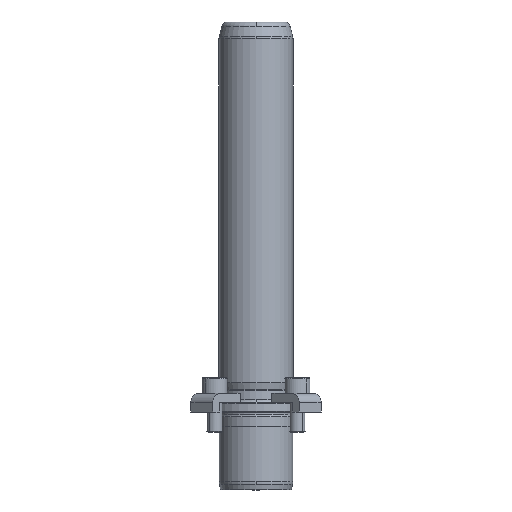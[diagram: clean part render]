
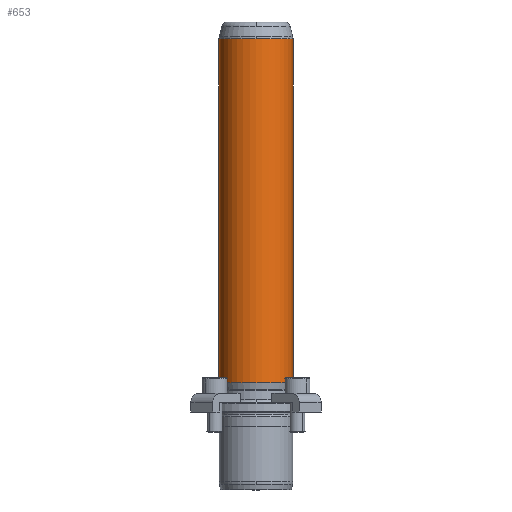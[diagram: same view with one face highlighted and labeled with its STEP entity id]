
A CAD part, front view. The second image highlights one B-rep face of the part: STEP entity #653.
In plain terms, the highlighted cylindrical face has radius 19 mm (diameter 38 mm), a partial arc.
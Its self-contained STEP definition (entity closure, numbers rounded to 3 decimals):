
#566=CARTESIAN_POINT('',(0.0,-19.,191.342));
#567=VERTEX_POINT('',#566);
#594=CARTESIAN_POINT('',(-19.0,0.,191.342));
#595=VERTEX_POINT('',#594);
#603=CARTESIAN_POINT('',(0.0,0.,191.342));
#604=DIRECTION('',(0.0,0.0,1.0));
#605=DIRECTION('',(1.0,0.0,0.0));
#606=AXIS2_PLACEMENT_3D('',#603,#604,#605);
#607=CIRCLE('',#606,19.);
#608=EDGE_CURVE('',#595,#567,#607,.T.);
#613=CARTESIAN_POINT('',(0.0,0.,103.171));
#614=DIRECTION('',(0.0,0.,1.0));
#615=DIRECTION('',(1.0,0.0,0.0));
#616=AXIS2_PLACEMENT_3D('',#613,#614,#615);
#617=CYLINDRICAL_SURFACE('',#616,19.0);
#618=CARTESIAN_POINT('',(19.,0.,191.342));
#619=VERTEX_POINT('',#618);
#620=CARTESIAN_POINT('',(19.0,0.,15.0));
#621=VERTEX_POINT('',#620);
#622=CARTESIAN_POINT('',(19.,0.,191.342));
#623=DIRECTION('',(0.0,0.0,-1.0));
#624=VECTOR('',#623,176.342);
#625=LINE('',#622,#624);
#626=EDGE_CURVE('',#619,#621,#625,.T.);
#627=ORIENTED_EDGE('',*,*,#626,.F.);
#628=CARTESIAN_POINT('',(0.0,0.,191.342));
#629=DIRECTION('',(0.0,0.0,1.0));
#630=DIRECTION('',(1.0,0.0,0.0));
#631=AXIS2_PLACEMENT_3D('',#628,#629,#630);
#632=CIRCLE('',#631,19.);
#633=EDGE_CURVE('',#567,#619,#632,.T.);
#634=ORIENTED_EDGE('',*,*,#633,.F.);
#635=ORIENTED_EDGE('',*,*,#608,.F.);
#636=CARTESIAN_POINT('',(-19.0,0.,15.0));
#637=VERTEX_POINT('',#636);
#638=CARTESIAN_POINT('',(-19.0,0.,191.342));
#639=DIRECTION('',(0.0,0.0,-1.0));
#640=VECTOR('',#639,176.342);
#641=LINE('',#638,#640);
#642=EDGE_CURVE('',#595,#637,#641,.T.);
#643=ORIENTED_EDGE('',*,*,#642,.T.);
#644=CARTESIAN_POINT('',(0.0,0.,15.0));
#645=DIRECTION('',(0.0,0.0,1.0));
#646=DIRECTION('',(1.0,0.0,0.0));
#647=AXIS2_PLACEMENT_3D('',#644,#645,#646);
#648=CIRCLE('',#647,19.0);
#649=EDGE_CURVE('',#637,#621,#648,.T.);
#650=ORIENTED_EDGE('',*,*,#649,.T.);
#651=EDGE_LOOP('',(#627,#634,#635,#643,#650));
#652=FACE_OUTER_BOUND('',#651,.T.);
#653=ADVANCED_FACE('',(#652),#617,.T.);
